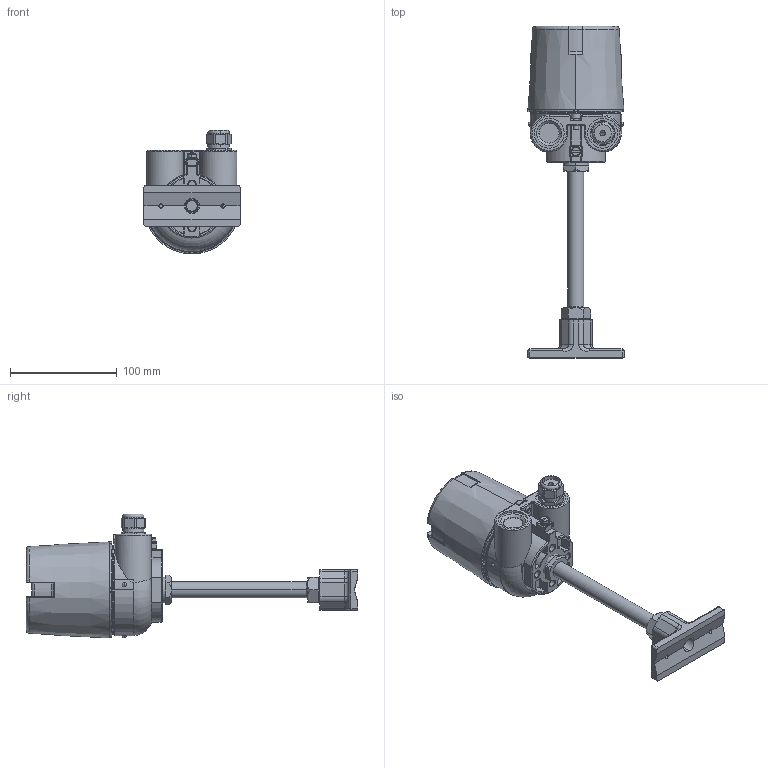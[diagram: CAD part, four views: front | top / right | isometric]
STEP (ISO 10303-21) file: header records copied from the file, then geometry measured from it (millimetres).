
FILE_DESCRIPTION((''),'2;1');
FILE_NAME('TSP341-N-WINDOW','2023-03-07T13:19:33',('DEU214042'),(''),'CREO PARAMETRIC BY PTC INC, 2020281','CREO PARAMETRIC BY PTC INC, 2020281','');
FILE_SCHEMA(('CONFIG_CONTROL_DESIGN','SHAPE_APPEARANCE_LAYERS_GROUPS'));
Products named in the file (1): TSP341-N-WINDOW
Bounding box: 90 x 310.2 x 115.83 mm (x, y, z)
Surface area: 155626.4 mm2 (no closed solid volume)
Topology: 0 solids, 23 shells, 2512 faces, 6670 edges, 4321 vertices
Faces by surface type: plane 1922, cylinder 297, torus 118, cone 98, bspline 47, sphere 30
Entity records: 98358 total; most frequent: CARTESIAN_POINT 18415, ORIENTED_EDGE 13312, DIRECTION 12200, EDGE_CURVE 6656, VECTOR 5416, LINE 5416, VERTEX_POINT 4321, AXIS2_PLACEMENT_3D 3392
